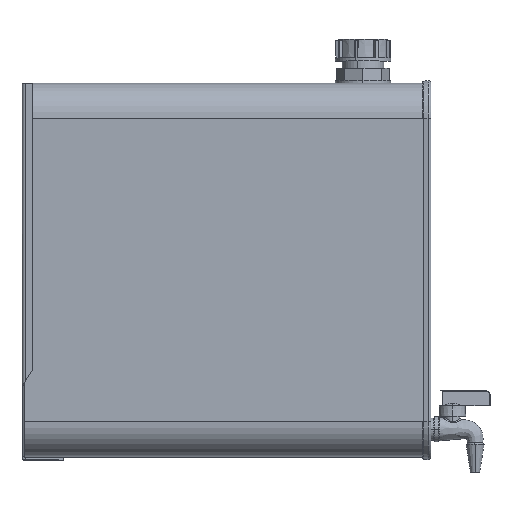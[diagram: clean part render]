
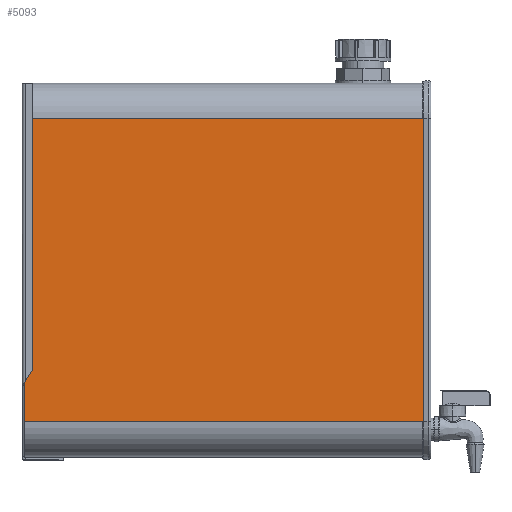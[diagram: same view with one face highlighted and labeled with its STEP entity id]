
A CAD part, top view. The second image highlights one B-rep face of the part: STEP entity #5093.
In plain terms, the highlighted planar face has unit normal (0, 0, 1).
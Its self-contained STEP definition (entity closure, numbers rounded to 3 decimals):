
#24 = CARTESIAN_POINT ( 'NONE',  ( 400., -150., 85. ) ) ;
#148 = CARTESIAN_POINT ( 'NONE',  ( 400., -150., 85. ) ) ;
#199 = FACE_OUTER_BOUND ( 'NONE', #4244, .T. ) ;
#218 = VERTEX_POINT ( 'NONE', #6356 ) ;
#385 = EDGE_CURVE ( 'NONE', #218, #6822, #7142, .T. ) ;
#523 = VERTEX_POINT ( 'NONE', #24 ) ;
#594 = VERTEX_POINT ( 'NONE', #1126 ) ;
#604 = ORIENTED_EDGE ( 'NONE', *, *, #4880, .T. ) ;
#842 = CARTESIAN_POINT ( 'NONE',  ( 400., 150., 85. ) ) ;
#1126 = CARTESIAN_POINT ( 'NONE',  ( 400., 150., 85. ) ) ;
#1229 = LINE ( 'NONE', #1910, #2894 ) ;
#1318 = AXIS2_PLACEMENT_3D ( 'NONE', #842, #2506, #3147 ) ;
#1445 = CARTESIAN_POINT ( 'NONE',  ( 0., -150., 85. ) ) ;
#1786 = LINE ( 'NONE', #148, #3505 ) ;
#1828 = EDGE_CURVE ( 'NONE', #594, #523, #3129, .T. ) ;
#1910 = CARTESIAN_POINT ( 'NONE',  ( 400., 150., 85. ) ) ;
#2035 = CARTESIAN_POINT ( 'NONE',  ( 400., 150., 85. ) ) ;
#2438 = DIRECTION ( 'NONE',  ( -1., 0., 0. ) ) ;
#2506 = DIRECTION ( 'NONE',  ( 0., 0., -1. ) ) ;
#2726 = EDGE_CURVE ( 'NONE', #523, #6822, #1786, .T. ) ;
#2894 = VECTOR ( 'NONE', #2438, 1000. ) ;
#3063 = DIRECTION ( 'NONE',  ( -1., 0., 0. ) ) ;
#3129 = LINE ( 'NONE', #2035, #6914 ) ;
#3147 = DIRECTION ( 'NONE',  ( -1., 0., 0. ) ) ;
#3505 = VECTOR ( 'NONE', #3063, 1000. ) ;
#3717 = DIRECTION ( 'NONE',  ( 0., -1., 0. ) ) ;
#4244 = EDGE_LOOP ( 'NONE', ( #6594, #5819, #5054, #604 ) ) ;
#4284 = PLANE ( 'NONE',  #1318 ) ;
#4880 = EDGE_CURVE ( 'NONE', #594, #218, #1229, .T. ) ;
#5054 = ORIENTED_EDGE ( 'NONE', *, *, #1828, .F. ) ;
#5093 = ADVANCED_FACE ( 'NONE', ( #199 ), #4284, .F. ) ;
#5704 = VECTOR ( 'NONE', #3717, 1000. ) ;
#5819 = ORIENTED_EDGE ( 'NONE', *, *, #2726, .F. ) ;
#6004 = CARTESIAN_POINT ( 'NONE',  ( 0., 150., 85. ) ) ;
#6356 = CARTESIAN_POINT ( 'NONE',  ( 0., 150., 85. ) ) ;
#6557 = DIRECTION ( 'NONE',  ( 0., -1., 0. ) ) ;
#6594 = ORIENTED_EDGE ( 'NONE', *, *, #385, .T. ) ;
#6822 = VERTEX_POINT ( 'NONE', #1445 ) ;
#6914 = VECTOR ( 'NONE', #6557, 1000. ) ;
#7142 = LINE ( 'NONE', #6004, #5704 ) ;
